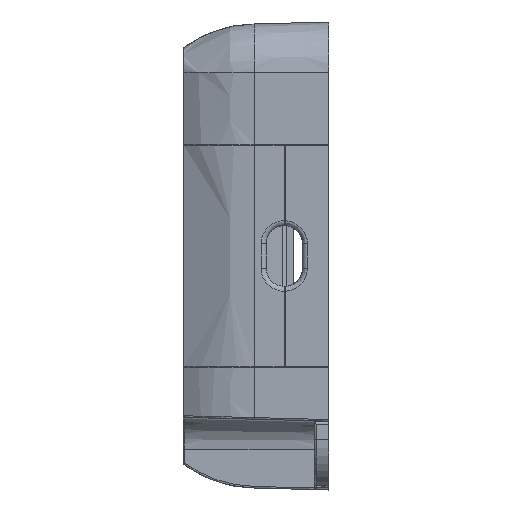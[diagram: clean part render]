
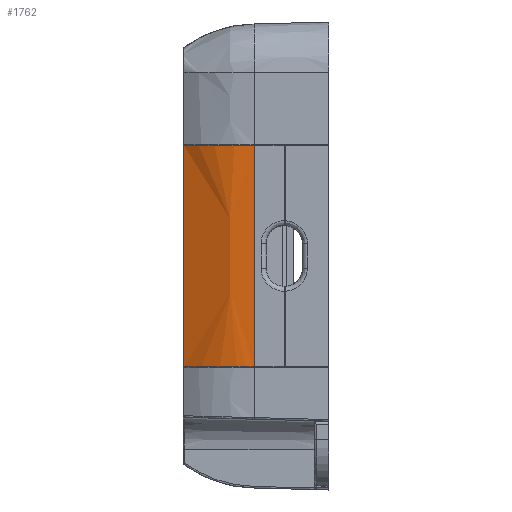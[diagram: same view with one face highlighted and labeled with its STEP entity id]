
A CAD part, left-side view. The second image highlights one B-rep face of the part: STEP entity #1762.
In plain terms, the highlighted free-form (B-spline) face has degree [3, 3] with [5, 4] control points.
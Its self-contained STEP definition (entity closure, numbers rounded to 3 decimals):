
#1762=ADVANCED_FACE('',(#2757),#2730,.T.);
#2730=B_SPLINE_SURFACE_WITH_KNOTS('',3,3,((#24662,#24663,#24664,#24665),
(#24666,#24667,#24668,#24669),(#24670,#24671,#24672,#24673),(#24674,#24675,
#24676,#24677),(#24678,#24679,#24680,#24681)),.UNSPECIFIED.,.F.,.F.,.F.,
(4,1,4),(4,4),(0.,0.672,1.),(0.,1.),.UNSPECIFIED.);
#2757=FACE_OUTER_BOUND('',#3679,.T.);
#3679=EDGE_LOOP('',(#8449,#8450,#8451,#8452));
#4708=LINE('',#24655,#6577);
#6577=VECTOR('',#19820,1.);
#8449=ORIENTED_EDGE('',*,*,#15493,.F.);
#8450=ORIENTED_EDGE('',*,*,#15494,.T.);
#8451=ORIENTED_EDGE('',*,*,#15495,.T.);
#8452=ORIENTED_EDGE('',*,*,#15496,.T.);
#13771=VERTEX_POINT('',#24647);
#13772=VERTEX_POINT('',#24648);
#13773=VERTEX_POINT('',#24654);
#13774=VERTEX_POINT('',#24656);
#15493=EDGE_CURVE('',#13771,#13772,#18154,.T.);
#15494=EDGE_CURVE('',#13771,#13773,#18155,.T.);
#15495=EDGE_CURVE('',#13773,#13774,#4708,.T.);
#15496=EDGE_CURVE('',#13774,#13772,#18156,.T.);
#18154=B_SPLINE_CURVE_WITH_KNOTS('',3,(#24643,#24644,#24645,#24646),
 .UNSPECIFIED.,.F.,.F.,(4,4),(0.,1.),.UNSPECIFIED.);
#18155=B_SPLINE_CURVE_WITH_KNOTS('',3,(#24649,#24650,#24651,#24652,#24653),
 .UNSPECIFIED.,.F.,.F.,(4,1,4),(0.,0.323,1.),.UNSPECIFIED.);
#18156=B_SPLINE_CURVE_WITH_KNOTS('',3,(#24657,#24658,#24659,#24660,#24661),
 .UNSPECIFIED.,.F.,.F.,(4,1,4),(0.,0.677,1.),.UNSPECIFIED.);
#19820=DIRECTION('',(0.,0.,-1.));
#24643=CARTESIAN_POINT('',(-79.699,5.998,13.7));
#24644=CARTESIAN_POINT('',(-79.699,5.998,4.567));
#24645=CARTESIAN_POINT('',(-79.699,5.998,-4.567));
#24646=CARTESIAN_POINT('',(-79.699,5.998,-13.7));
#24647=CARTESIAN_POINT('',(-79.698,5.998,13.7));
#24648=CARTESIAN_POINT('',(-79.698,5.998,-13.7));
#24649=CARTESIAN_POINT('',(-79.697,5.998,13.7));
#24650=CARTESIAN_POINT('',(-79.684,7.005,13.7));
#24651=CARTESIAN_POINT('',(-79.332,10.118,13.7));
#24652=CARTESIAN_POINT('',(-78.016,13.021,13.7));
#24653=CARTESIAN_POINT('',(-76.76,14.719,13.7));
#24654=CARTESIAN_POINT('',(-76.76,14.719,13.7));
#24655=CARTESIAN_POINT('',(-76.76,14.719,13.7));
#24656=CARTESIAN_POINT('',(-76.76,14.719,-13.7));
#24657=CARTESIAN_POINT('',(-76.76,14.719,-13.7));
#24658=CARTESIAN_POINT('',(-78.016,13.021,-13.7));
#24659=CARTESIAN_POINT('',(-79.332,10.118,-13.7));
#24660=CARTESIAN_POINT('',(-79.684,7.005,-13.7));
#24661=CARTESIAN_POINT('',(-79.697,5.998,-13.7));
#24662=CARTESIAN_POINT('',(-76.67,14.84,-14.248));
#24663=CARTESIAN_POINT('',(-76.67,14.84,-4.749));
#24664=CARTESIAN_POINT('',(-76.67,14.84,4.749));
#24665=CARTESIAN_POINT('',(-76.67,14.84,14.248));
#24666=CARTESIAN_POINT('',(-77.973,13.115,-14.248));
#24667=CARTESIAN_POINT('',(-77.973,13.115,-4.749));
#24668=CARTESIAN_POINT('',(-77.973,13.115,4.749));
#24669=CARTESIAN_POINT('',(-77.973,13.115,14.248));
#24670=CARTESIAN_POINT('',(-79.348,10.122,-14.248));
#24671=CARTESIAN_POINT('',(-79.348,10.122,-4.749));
#24672=CARTESIAN_POINT('',(-79.348,10.122,4.749));
#24673=CARTESIAN_POINT('',(-79.348,10.122,14.248));
#24674=CARTESIAN_POINT('',(-79.695,6.904,-14.248));
#24675=CARTESIAN_POINT('',(-79.695,6.904,-4.749));
#24676=CARTESIAN_POINT('',(-79.695,6.904,4.749));
#24677=CARTESIAN_POINT('',(-79.695,6.904,14.248));
#24678=CARTESIAN_POINT('',(-79.698,5.847,-14.248));
#24679=CARTESIAN_POINT('',(-79.698,5.847,-4.749));
#24680=CARTESIAN_POINT('',(-79.698,5.847,4.749));
#24681=CARTESIAN_POINT('',(-79.698,5.847,14.248));
